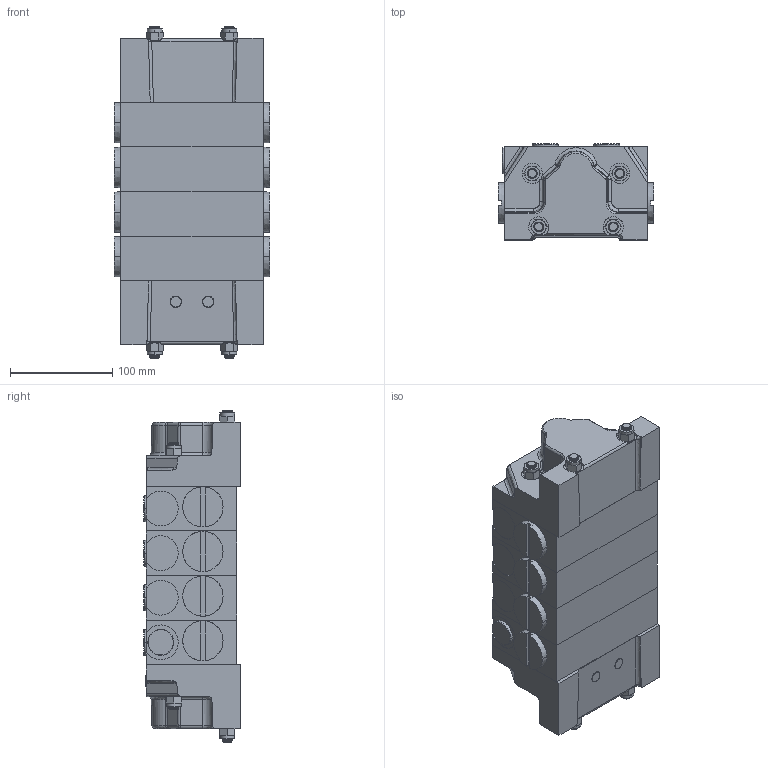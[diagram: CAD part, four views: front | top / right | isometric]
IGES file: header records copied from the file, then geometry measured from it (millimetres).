
Start section:  PTC IGES file: 24r198-en-j.igs
Global section: file name: 24r198-en-j.igs; native system: Creo Parametric by PTC Inc.; preprocessor: 2021072; author: qtmwp1; organization: Unknown; date: 20220214.113843; units: inch
Bounding box: 152.45 x 94.44 x 325.42 mm (x, y, z)
Surface area: 260612.5 mm2 (no closed solid volume)
Topology: 0 solids, 0 shells, 718 faces, 3324 edges, 3324 vertices
Faces by surface type: revolution 469, bspline 249
